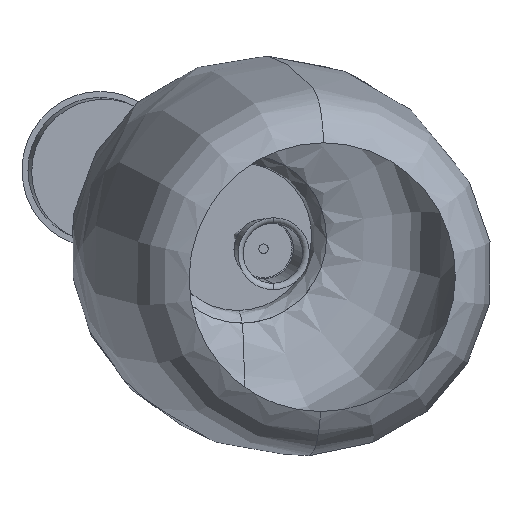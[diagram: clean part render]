
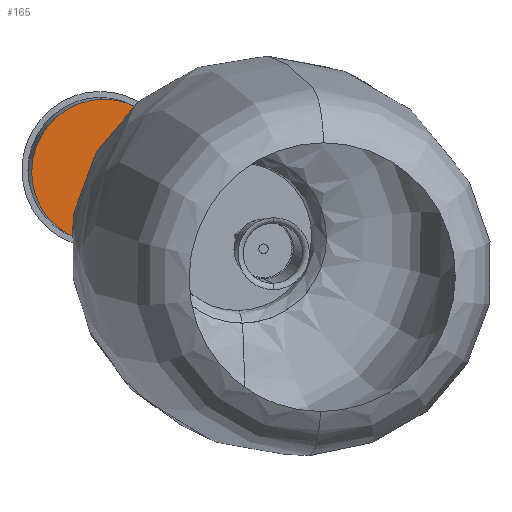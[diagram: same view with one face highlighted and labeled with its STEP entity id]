
A CAD part, front view. The second image highlights one B-rep face of the part: STEP entity #165.
In plain terms, the highlighted planar face has unit normal (0.155, -0.985, -0.075).
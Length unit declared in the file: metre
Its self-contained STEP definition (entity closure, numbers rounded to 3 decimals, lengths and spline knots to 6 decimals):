
#165=ADVANCED_FACE('1:139',(#299,#300),#301,.T.);
#299=FACE_BOUND('',#415,.T.);
#300=FACE_OUTER_BOUND('',#416,.T.);
#301=PLANE('',#417);
#415=EDGE_LOOP('',(#525,#526));
#416=EDGE_LOOP('',(#527,#528));
#417=AXIS2_PLACEMENT_3D('',#529,#530,#531);
#525=ORIENTED_EDGE('',*,*,#768,.T.);
#526=ORIENTED_EDGE('',*,*,#781,.T.);
#527=ORIENTED_EDGE('',*,*,#773,.T.);
#528=ORIENTED_EDGE('',*,*,#778,.T.);
#529=CARTESIAN_POINT('',(-0.168808,0.939621,0.073803));
#530=DIRECTION('',(0.155,-0.985,-0.075));
#531=DIRECTION('',(-0.003,-0.076,0.997));
#768=EDGE_CURVE('1:151',#853,#850,#854,.F.);
#773=EDGE_CURVE('1:145',#862,#859,#863,.T.);
#778=EDGE_CURVE('1:145',#859,#862,#869,.T.);
#781=EDGE_CURVE('1:151',#850,#853,#872,.F.);
#850=VERTEX_POINT('',#971);
#853=VERTEX_POINT('',#975);
#854=CIRCLE('',#976,0.004);
#859=VERTEX_POINT('',#982);
#862=VERTEX_POINT('',#986);
#863=CIRCLE('',#987,0.06);
#869=CIRCLE('',#994,0.06);
#872=CIRCLE('',#997,0.004);
#971=CARTESIAN_POINT('',(-0.168821,0.939315,0.077792));
#975=CARTESIAN_POINT('',(-0.168795,0.939926,0.069815));
#976=AXIS2_PLACEMENT_3D('',#1196,#1197,#1198);
#982=CARTESIAN_POINT('',(-0.169005,0.935042,0.133628));
#986=CARTESIAN_POINT('',(-0.168612,0.944199,0.013979));
#987=AXIS2_PLACEMENT_3D('',#1204,#1205,#1206);
#994=AXIS2_PLACEMENT_3D('',#1214,#1215,#1216);
#997=AXIS2_PLACEMENT_3D('',#1220,#1221,#1222);
#1196=CARTESIAN_POINT('',(-0.168808,0.939621,0.073803));
#1197=DIRECTION('',(0.155,-0.985,-0.075));
#1198=DIRECTION('',(-0.003,-0.076,0.997));
#1204=CARTESIAN_POINT('',(-0.168808,0.939621,0.073803));
#1205=DIRECTION('',(0.155,-0.985,-0.075));
#1206=DIRECTION('',(-0.003,-0.076,0.997));
#1214=CARTESIAN_POINT('',(-0.168808,0.939621,0.073803));
#1215=DIRECTION('',(0.155,-0.985,-0.075));
#1216=DIRECTION('',(-0.003,-0.076,0.997));
#1220=CARTESIAN_POINT('',(-0.168808,0.939621,0.073803));
#1221=DIRECTION('',(0.155,-0.985,-0.075));
#1222=DIRECTION('',(-0.003,-0.076,0.997));
